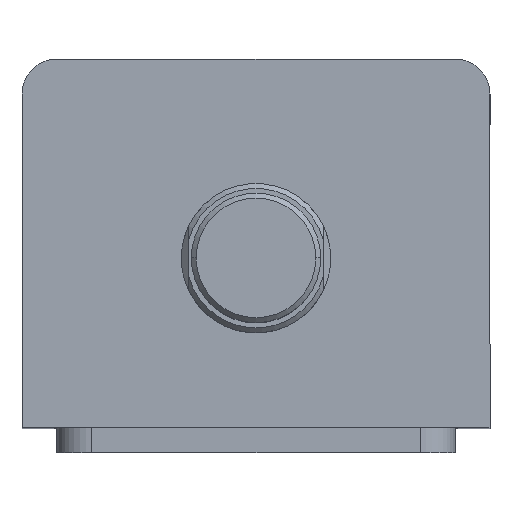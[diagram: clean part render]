
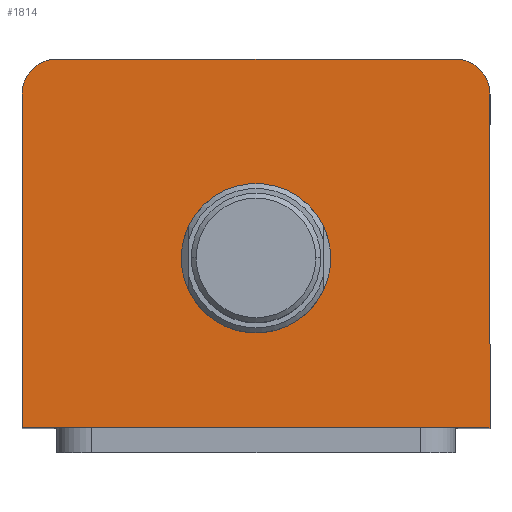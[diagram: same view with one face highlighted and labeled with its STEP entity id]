
A CAD part, top view. The second image highlights one B-rep face of the part: STEP entity #1814.
In plain terms, the highlighted planar face has unit normal (0, 0, 1).
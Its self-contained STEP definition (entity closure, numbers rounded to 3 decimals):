
#101 = VERTEX_POINT ( 'NONE', #1834 ) ;
#110 = VERTEX_POINT ( 'NONE', #1817 ) ;
#159 = CIRCLE ( 'NONE', #1957, 7. ) ;
#202 = LINE ( 'NONE', #1683, #205 ) ;
#205 = VECTOR ( 'NONE', #1682, 1000. ) ;
#252 = CIRCLE ( 'NONE', #1933, 7. ) ;
#268 = CIRCLE ( 'NONE', #1926, 15. ) ;
#281 = LINE ( 'NONE', #1162, #283 ) ;
#283 = VECTOR ( 'NONE', #1165, 1000. ) ;
#347 = FACE_BOUND ( 'NONE', #2910, .T. ) ;
#353 = FACE_OUTER_BOUND ( 'NONE', #2988, .T. ) ;
#359 = CIRCLE ( 'NONE', #1913, 15. ) ;
#881 = EDGE_CURVE ( 'NONE', #3049, #3035, #159, .T. ) ;
#910 = EDGE_CURVE ( 'NONE', #3033, #3049, #202, .T. ) ;
#962 = DIRECTION ( 'NONE',  ( 0., 1., 0. ) ) ;
#969 = CARTESIAN_POINT ( 'NONE',  ( 47., 37., 125. ) ) ;
#1004 = DIRECTION ( 'NONE',  ( 1., 0., 0. ) ) ;
#1006 = DIRECTION ( 'NONE',  ( 0., 0., 1. ) ) ;
#1008 = CARTESIAN_POINT ( 'NONE',  ( 0., -3., 125. ) ) ;
#1045 = DIRECTION ( 'NONE',  ( 0., 0., 1. ) ) ;
#1047 = DIRECTION ( 'NONE',  ( 1., 0., 0. ) ) ;
#1050 = CARTESIAN_POINT ( 'NONE',  ( 40., 30., 125. ) ) ;
#1070 = DIRECTION ( 'NONE',  ( 1., 0., 0. ) ) ;
#1071 = DIRECTION ( 'NONE',  ( 0., 0., 1. ) ) ;
#1072 = CARTESIAN_POINT ( 'NONE',  ( 0., -3., 125. ) ) ;
#1137 = LINE ( 'NONE', #969, #1150 ) ;
#1150 = VECTOR ( 'NONE', #962, 1000. ) ;
#1162 = CARTESIAN_POINT ( 'NONE',  ( -47., 37., 125. ) ) ;
#1165 = DIRECTION ( 'NONE',  ( 0., -1., 0. ) ) ;
#1185 = LINE ( 'NONE', #2400, #1189 ) ;
#1189 = VECTOR ( 'NONE', #2399, 1000. ) ;
#1274 = DIRECTION ( 'NONE',  ( 1., 0., 0. ) ) ;
#1282 = DIRECTION ( 'NONE',  ( 0., 0., 1. ) ) ;
#1290 = PLANE ( 'NONE',  #1657 ) ;
#1292 = CARTESIAN_POINT ( 'NONE',  ( 0., 0., 125. ) ) ;
#1608 = EDGE_CURVE ( 'NONE', #3078, #3033, #252, .T. ) ;
#1616 = EDGE_CURVE ( 'NONE', #3055, #110, #268, .T. ) ;
#1626 = EDGE_CURVE ( 'NONE', #3035, #3079, #281, .T. ) ;
#1657 = AXIS2_PLACEMENT_3D ( 'NONE', #1292, #1282, #1274 ) ;
#1682 = DIRECTION ( 'NONE',  ( -1., 0., 0. ) ) ;
#1683 = CARTESIAN_POINT ( 'NONE',  ( -47., 37., 125. ) ) ;
#1766 = DIRECTION ( 'NONE',  ( 1., 0., 0. ) ) ;
#1767 = DIRECTION ( 'NONE',  ( 0., 0., 1. ) ) ;
#1768 = CARTESIAN_POINT ( 'NONE',  ( -40., 30., 125. ) ) ;
#1814 = ADVANCED_FACE ( 'NONE', ( #347, #353 ), #1290, .T. ) ;
#1817 = CARTESIAN_POINT ( 'NONE',  ( -15., -3., 125. ) ) ;
#1834 = CARTESIAN_POINT ( 'NONE',  ( 47., -37., 125. ) ) ;
#1913 = AXIS2_PLACEMENT_3D ( 'NONE', #1072, #1071, #1070 ) ;
#1926 = AXIS2_PLACEMENT_3D ( 'NONE', #1008, #1006, #1004 ) ;
#1933 = AXIS2_PLACEMENT_3D ( 'NONE', #1050, #1045, #1047 ) ;
#1957 = AXIS2_PLACEMENT_3D ( 'NONE', #1768, #1767, #1766 ) ;
#1972 = EDGE_CURVE ( 'NONE', #110, #3055, #359, .T. ) ;
#2002 = EDGE_CURVE ( 'NONE', #101, #3078, #1137, .T. ) ;
#2020 = EDGE_CURVE ( 'NONE', #3079, #101, #1185, .T. ) ;
#2114 = CARTESIAN_POINT ( 'NONE',  ( -47., -37., 125. ) ) ;
#2115 = CARTESIAN_POINT ( 'NONE',  ( 47., 30., 125. ) ) ;
#2148 = CARTESIAN_POINT ( 'NONE',  ( 15., -3., 125. ) ) ;
#2155 = CARTESIAN_POINT ( 'NONE',  ( -40., 37., 125. ) ) ;
#2171 = CARTESIAN_POINT ( 'NONE',  ( -47., 30., 125. ) ) ;
#2174 = CARTESIAN_POINT ( 'NONE',  ( 40., 37., 125. ) ) ;
#2399 = DIRECTION ( 'NONE',  ( 1., 0., 0. ) ) ;
#2400 = CARTESIAN_POINT ( 'NONE',  ( -47., -37., 125. ) ) ;
#2551 = ORIENTED_EDGE ( 'NONE', *, *, #1616, .F. ) ;
#2552 = ORIENTED_EDGE ( 'NONE', *, *, #1972, .F. ) ;
#2553 = ORIENTED_EDGE ( 'NONE', *, *, #910, .T. ) ;
#2554 = ORIENTED_EDGE ( 'NONE', *, *, #881, .T. ) ;
#2555 = ORIENTED_EDGE ( 'NONE', *, *, #1626, .T. ) ;
#2556 = ORIENTED_EDGE ( 'NONE', *, *, #2020, .T. ) ;
#2573 = ORIENTED_EDGE ( 'NONE', *, *, #2002, .T. ) ;
#2574 = ORIENTED_EDGE ( 'NONE', *, *, #1608, .T. ) ;
#2910 = EDGE_LOOP ( 'NONE', ( #2551, #2552 ) ) ;
#2988 = EDGE_LOOP ( 'NONE', ( #2553, #2554, #2555, #2556, #2573, #2574 ) ) ;
#3033 = VERTEX_POINT ( 'NONE', #2174 ) ;
#3035 = VERTEX_POINT ( 'NONE', #2171 ) ;
#3049 = VERTEX_POINT ( 'NONE', #2155 ) ;
#3055 = VERTEX_POINT ( 'NONE', #2148 ) ;
#3078 = VERTEX_POINT ( 'NONE', #2115 ) ;
#3079 = VERTEX_POINT ( 'NONE', #2114 ) ;
